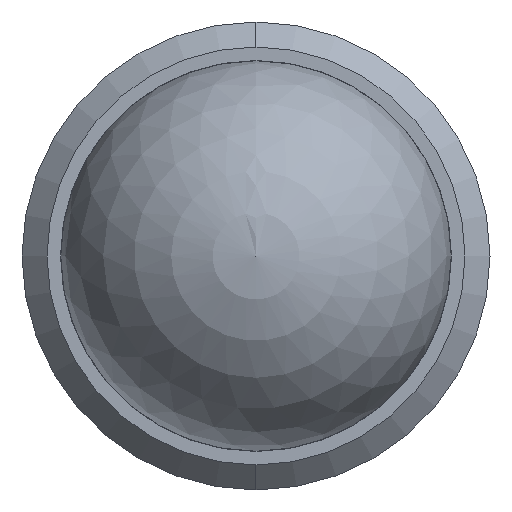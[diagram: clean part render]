
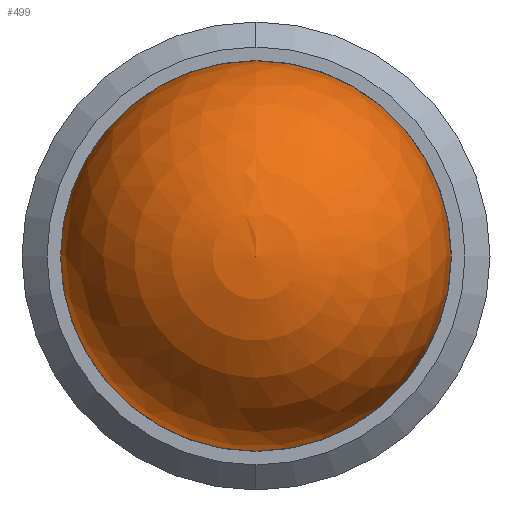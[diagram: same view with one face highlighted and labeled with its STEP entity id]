
A CAD part, left-side view. The second image highlights one B-rep face of the part: STEP entity #499.
In plain terms, the highlighted spherical face has radius 1.984 mm.
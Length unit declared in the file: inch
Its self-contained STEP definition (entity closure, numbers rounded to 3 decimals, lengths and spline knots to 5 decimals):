
#15 = DIRECTION ( 'NONE',  ( 0., 0., 1. ) ) ;
#44 = DIRECTION ( 'NONE',  ( -1., 0., 0. ) ) ;
#73 = SPHERICAL_SURFACE ( 'NONE', #345, 0.07813 ) ;
#88 = EDGE_CURVE ( 'NONE', #530, #570, #294, .T. ) ;
#117 = CARTESIAN_POINT ( 'NONE',  ( 0., 0.07813, 0. ) ) ;
#160 = EDGE_CURVE ( 'NONE', #530, #570, #234, .T. ) ;
#171 = FACE_OUTER_BOUND ( 'NONE', #588, .T. ) ;
#217 = CARTESIAN_POINT ( 'NONE',  ( 0., -0.07813, 0. ) ) ;
#234 = CIRCLE ( 'NONE', #549, 0.07813 ) ;
#294 = CIRCLE ( 'NONE', #593, 0.07813 ) ;
#315 = CARTESIAN_POINT ( 'NONE',  ( 0., 0., 0. ) ) ;
#327 = DIRECTION ( 'NONE',  ( -1., 0., 0. ) ) ;
#330 = ORIENTED_EDGE ( 'NONE', *, *, #160, .T. ) ;
#345 = AXIS2_PLACEMENT_3D ( 'NONE', #598, #327, #15 ) ;
#358 = CARTESIAN_POINT ( 'NONE',  ( 0., 0., 0. ) ) ;
#359 = DIRECTION ( 'NONE',  ( 0., 0., -1. ) ) ;
#396 = DIRECTION ( 'NONE',  ( 0., 0., 1. ) ) ;
#483 = ORIENTED_EDGE ( 'NONE', *, *, #88, .F. ) ;
#499 = ADVANCED_FACE ( 'NONE', ( #171 ), #73, .T. ) ;
#530 = VERTEX_POINT ( 'NONE', #117 ) ;
#549 = AXIS2_PLACEMENT_3D ( 'NONE', #358, #44, #396 ) ;
#570 = VERTEX_POINT ( 'NONE', #217 ) ;
#588 = EDGE_LOOP ( 'NONE', ( #483, #330 ) ) ;
#593 = AXIS2_PLACEMENT_3D ( 'NONE', #315, #624, #359 ) ;
#598 = CARTESIAN_POINT ( 'NONE',  ( 0., 0., 0. ) ) ;
#624 = DIRECTION ( 'NONE',  ( 1., 0., 0. ) ) ;
